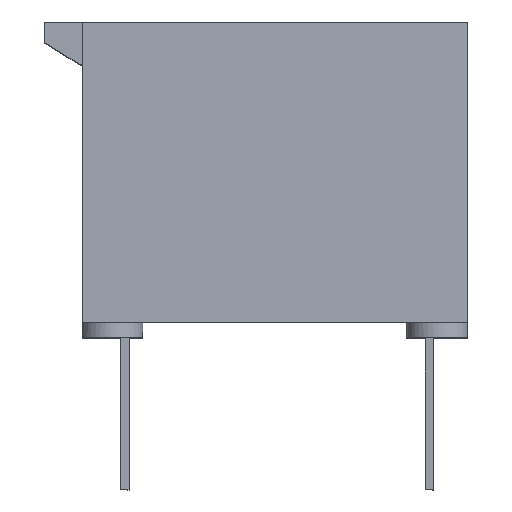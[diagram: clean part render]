
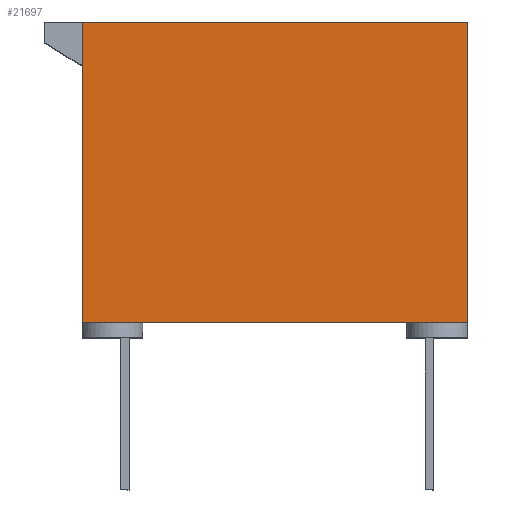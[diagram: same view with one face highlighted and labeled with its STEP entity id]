
A CAD part, top view. The second image highlights one B-rep face of the part: STEP entity #21697.
In plain terms, the highlighted planar face has unit normal (0, 0, 1).
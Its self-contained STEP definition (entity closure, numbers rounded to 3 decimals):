
#460 = VERTEX_POINT ( 'NONE', #2100 ) ;
#1580 = CARTESIAN_POINT ( 'NONE',  ( -4.407, 0., 0. ) ) ;
#1595 = VECTOR ( 'NONE', #9496, 1000. ) ;
#1688 = LINE ( 'NONE', #1580, #21971 ) ;
#1909 = EDGE_LOOP ( 'NONE', ( #10179, #20521, #12508, #12232, #22235, #9227 ) ) ;
#1942 = DIRECTION ( 'NONE',  ( 0., 0., -1. ) ) ;
#1963 = VECTOR ( 'NONE', #7634, 1000. ) ;
#2100 = CARTESIAN_POINT ( 'NONE',  ( 4.763, 0., 0. ) ) ;
#2467 = EDGE_CURVE ( 'NONE', #5320, #16852, #20018, .T. ) ;
#2931 = CARTESIAN_POINT ( 'NONE',  ( -4.407, 0., 0. ) ) ;
#3049 = VECTOR ( 'NONE', #13258, 1000. ) ;
#3780 = FACE_OUTER_BOUND ( 'NONE', #1909, .T. ) ;
#3913 = LINE ( 'NONE', #7427, #1963 ) ;
#4303 = CARTESIAN_POINT ( 'NONE',  ( -4.153, 0., 0. ) ) ;
#5026 = CARTESIAN_POINT ( 'NONE',  ( -4.89, 7.518, 0. ) ) ;
#5320 = VERTEX_POINT ( 'NONE', #5026 ) ;
#5473 = CARTESIAN_POINT ( 'NONE',  ( -4.889, 0., 0. ) ) ;
#6250 = LINE ( 'NONE', #9956, #3049 ) ;
#6320 = CARTESIAN_POINT ( 'NONE',  ( -4.889, 0., 0. ) ) ;
#7029 = EDGE_CURVE ( 'NONE', #460, #8911, #3913, .T. ) ;
#7048 = DIRECTION ( 'NONE',  ( 1., 0., 0. ) ) ;
#7427 = CARTESIAN_POINT ( 'NONE',  ( 4.763, 0., 0. ) ) ;
#7634 = DIRECTION ( 'NONE',  ( 0., 1., 0. ) ) ;
#8117 = DIRECTION ( 'NONE',  ( 0., -1., 0. ) ) ;
#8911 = VERTEX_POINT ( 'NONE', #11781 ) ;
#9137 = CARTESIAN_POINT ( 'NONE',  ( -4.889, 0., 0. ) ) ;
#9227 = ORIENTED_EDGE ( 'NONE', *, *, #7029, .T. ) ;
#9496 = DIRECTION ( 'NONE',  ( 1., 0., 0. ) ) ;
#9956 = CARTESIAN_POINT ( 'NONE',  ( -4.407, 0., 0. ) ) ;
#10179 = ORIENTED_EDGE ( 'NONE', *, *, #21285, .T. ) ;
#10291 = LINE ( 'NONE', #17225, #14070 ) ;
#10431 = DIRECTION ( 'NONE',  ( -1., 0., 0. ) ) ;
#11781 = CARTESIAN_POINT ( 'NONE',  ( 4.763, 7.518, 0. ) ) ;
#12232 = ORIENTED_EDGE ( 'NONE', *, *, #19068, .T. ) ;
#12508 = ORIENTED_EDGE ( 'NONE', *, *, #14237, .T. ) ;
#13258 = DIRECTION ( 'NONE',  ( 1., 0., 0. ) ) ;
#14070 = VECTOR ( 'NONE', #21974, 1000. ) ;
#14237 = EDGE_CURVE ( 'NONE', #16852, #16117, #1688, .T. ) ;
#16117 = VERTEX_POINT ( 'NONE', #4303 ) ;
#16551 = EDGE_CURVE ( 'NONE', #21449, #460, #21723, .T. ) ;
#16852 = VERTEX_POINT ( 'NONE', #9137 ) ;
#17225 = CARTESIAN_POINT ( 'NONE',  ( 4.763, 7.518, 0. ) ) ;
#17702 = PLANE ( 'NONE',  #19873 ) ;
#19068 = EDGE_CURVE ( 'NONE', #16117, #21449, #6250, .T. ) ;
#19873 = AXIS2_PLACEMENT_3D ( 'NONE', #5473, #1942, #10431 ) ;
#20018 = LINE ( 'NONE', #6320, #21670 ) ;
#20370 = CARTESIAN_POINT ( 'NONE',  ( 4.026, 0., 0. ) ) ;
#20521 = ORIENTED_EDGE ( 'NONE', *, *, #2467, .T. ) ;
#21285 = EDGE_CURVE ( 'NONE', #8911, #5320, #10291, .T. ) ;
#21449 = VERTEX_POINT ( 'NONE', #20370 ) ;
#21670 = VECTOR ( 'NONE', #8117, 1000. ) ;
#21697 = ADVANCED_FACE ( 'NONE', ( #3780 ), #17702, .F. ) ;
#21723 = LINE ( 'NONE', #2931, #1595 ) ;
#21971 = VECTOR ( 'NONE', #7048, 1000. ) ;
#21974 = DIRECTION ( 'NONE',  ( -1., 0., 0. ) ) ;
#22235 = ORIENTED_EDGE ( 'NONE', *, *, #16551, .T. ) ;
